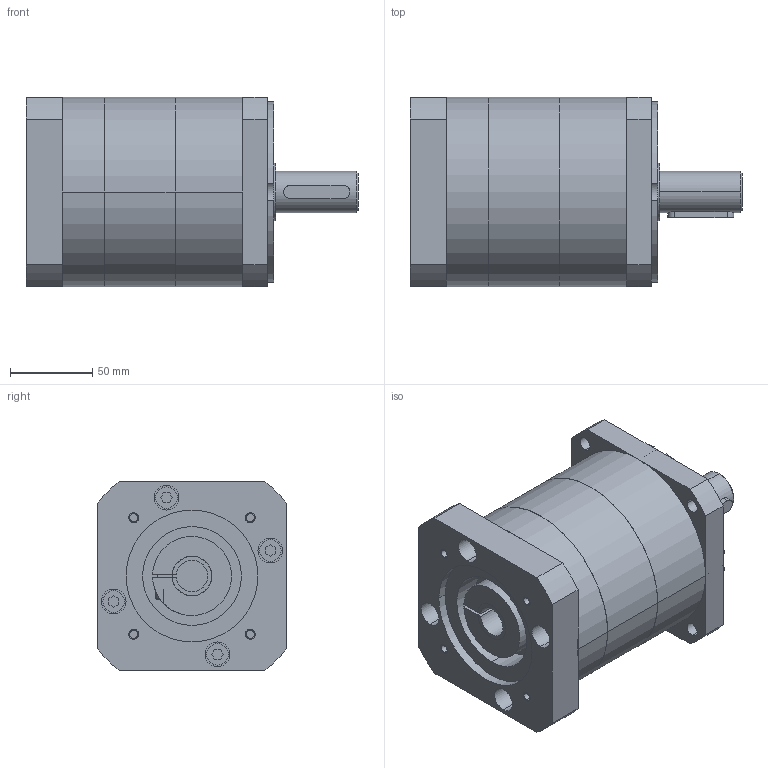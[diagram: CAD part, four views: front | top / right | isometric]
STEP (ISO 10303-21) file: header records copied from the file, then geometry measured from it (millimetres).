
FILE_DESCRIPTION((''),'2;1');
FILE_NAME('MB_PLE_MASTER','2019-02-15T',('agw'),(''),'CREO PARAMETRIC BY PTC INC, 2015290','CREO PARAMETRIC BY PTC INC, 2015290','');
FILE_SCHEMA(('AUTOMOTIVE_DESIGN { 1 0 10303 214 1 1 1 1 }'));
Length unit declared in the file: millimetre
Products named in the file (1): MB_PLE_MASTER
Bounding box: 201.5 x 115 x 115 mm (x, y, z)
Volume: 1567409.2 mm3; surface area: 139744.1 mm2
Topology: 1 solids, 11 shells, 318 faces, 736 edges, 483 vertices
Faces by surface type: plane 179, cylinder 127, torus 6, cone 6
Entity records: 9707 total; most frequent: DIRECTION 1656, CARTESIAN_POINT 1600, ORIENTED_EDGE 1448, EDGE_CURVE 734, AXIS2_PLACEMENT_3D 607, VERTEX_POINT 483, VECTOR 442, LINE 442
